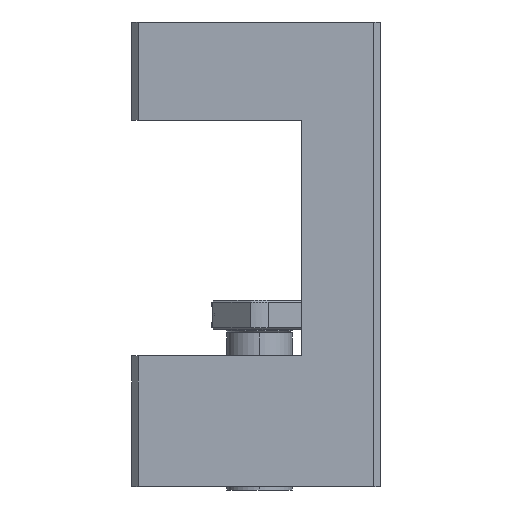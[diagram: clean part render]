
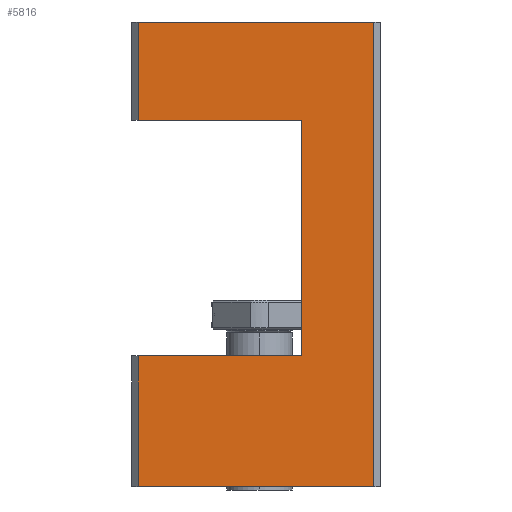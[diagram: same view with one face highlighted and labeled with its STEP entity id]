
A CAD part, left-side view. The second image highlights one B-rep face of the part: STEP entity #5816.
In plain terms, the highlighted planar face has unit normal (-1, 0, 0).
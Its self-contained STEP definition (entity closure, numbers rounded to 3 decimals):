
#68 = VERTEX_POINT ( 'NONE', #7967 ) ;
#485 = ORIENTED_EDGE ( 'NONE', *, *, #5452, .T. ) ;
#612 = ORIENTED_EDGE ( 'NONE', *, *, #2133, .F. ) ;
#669 = VERTEX_POINT ( 'NONE', #1309 ) ;
#717 = CARTESIAN_POINT ( 'NONE',  ( -21.5, -6.5, 71. ) ) ;
#1309 = CARTESIAN_POINT ( 'NONE',  ( -21.5, 18.5, 20. ) ) ;
#1413 = VERTEX_POINT ( 'NONE', #3307 ) ;
#1439 = DIRECTION ( 'NONE',  ( 1., 0., 0. ) ) ;
#1539 = ORIENTED_EDGE ( 'NONE', *, *, #4622, .T. ) ;
#1811 = CARTESIAN_POINT ( 'NONE',  ( -21.5, 18.5, 71. ) ) ;
#1820 = ORIENTED_EDGE ( 'NONE', *, *, #2327, .T. ) ;
#1991 = VERTEX_POINT ( 'NONE', #2063 ) ;
#2063 = CARTESIAN_POINT ( 'NONE',  ( -21.5, -6.5, 20. ) ) ;
#2088 = ORIENTED_EDGE ( 'NONE', *, *, #2514, .F. ) ;
#2133 = EDGE_CURVE ( 'NONE', #1991, #68, #2988, .T. ) ;
#2327 = EDGE_CURVE ( 'NONE', #2728, #9030, #3997, .T. ) ;
#2372 = CARTESIAN_POINT ( 'NONE',  ( -21.5, 18.5, 71. ) ) ;
#2514 = EDGE_CURVE ( 'NONE', #2728, #1413, #6019, .T. ) ;
#2728 = VERTEX_POINT ( 'NONE', #3164 ) ;
#2834 = DIRECTION ( 'NONE',  ( 0., -1., 0. ) ) ;
#2979 = CARTESIAN_POINT ( 'NONE',  ( -21.5, 19.5, 56. ) ) ;
#2988 = LINE ( 'NONE', #717, #7396 ) ;
#3082 = CARTESIAN_POINT ( 'NONE',  ( -21.5, 19.5, 71. ) ) ;
#3135 = VECTOR ( 'NONE', #7153, 1000. ) ;
#3164 = CARTESIAN_POINT ( 'NONE',  ( -21.5, 18.5, 71. ) ) ;
#3307 = CARTESIAN_POINT ( 'NONE',  ( -21.5, -17.5, 71. ) ) ;
#3783 = CARTESIAN_POINT ( 'NONE',  ( -21.5, 19.5, 71. ) ) ;
#3901 = VECTOR ( 'NONE', #4944, 1000. ) ;
#3997 = LINE ( 'NONE', #2372, #3135 ) ;
#4200 = ORIENTED_EDGE ( 'NONE', *, *, #4985, .T. ) ;
#4622 = EDGE_CURVE ( 'NONE', #4695, #1413, #9066, .T. ) ;
#4695 = VERTEX_POINT ( 'NONE', #7545 ) ;
#4944 = DIRECTION ( 'NONE',  ( 0., 0., -1. ) ) ;
#4985 = EDGE_CURVE ( 'NONE', #9030, #68, #5141, .T. ) ;
#5031 = ORIENTED_EDGE ( 'NONE', *, *, #8113, .T. ) ;
#5141 = LINE ( 'NONE', #2979, #9812 ) ;
#5452 = EDGE_CURVE ( 'NONE', #669, #7170, #8854, .T. ) ;
#5816 = ADVANCED_FACE ( 'NONE', ( #10070 ), #8482, .F. ) ;
#5837 = CARTESIAN_POINT ( 'NONE',  ( -21.5, -17.5, 71. ) ) ;
#6019 = LINE ( 'NONE', #3783, #9205 ) ;
#6029 = DIRECTION ( 'NONE',  ( 0., 1., 0. ) ) ;
#6095 = EDGE_CURVE ( 'NONE', #1991, #669, #7421, .T. ) ;
#6134 = DIRECTION ( 'NONE',  ( 0., 0., 1. ) ) ;
#6580 = VECTOR ( 'NONE', #2834, 1000. ) ;
#6838 = DIRECTION ( 'NONE',  ( 0., -1., 0. ) ) ;
#6839 = DIRECTION ( 'NONE',  ( 0., -1., 0. ) ) ;
#7153 = DIRECTION ( 'NONE',  ( 0., 0., -1. ) ) ;
#7170 = VERTEX_POINT ( 'NONE', #7559 ) ;
#7396 = VECTOR ( 'NONE', #6134, 1000. ) ;
#7421 = LINE ( 'NONE', #8179, #7812 ) ;
#7441 = EDGE_LOOP ( 'NONE', ( #5031, #1539, #2088, #1820, #4200, #612, #9322, #485 ) ) ;
#7491 = DIRECTION ( 'NONE',  ( 0., 0., 1. ) ) ;
#7521 = CARTESIAN_POINT ( 'NONE',  ( -21.5, 19.5, 0. ) ) ;
#7545 = CARTESIAN_POINT ( 'NONE',  ( -21.5, -17.5, 0. ) ) ;
#7559 = CARTESIAN_POINT ( 'NONE',  ( -21.5, 18.5, 0. ) ) ;
#7812 = VECTOR ( 'NONE', #8126, 1000. ) ;
#7967 = CARTESIAN_POINT ( 'NONE',  ( -21.5, -6.5, 56. ) ) ;
#8113 = EDGE_CURVE ( 'NONE', #7170, #4695, #9867, .T. ) ;
#8126 = DIRECTION ( 'NONE',  ( 0., 1., 0. ) ) ;
#8179 = CARTESIAN_POINT ( 'NONE',  ( -21.5, 19.5, 20. ) ) ;
#8482 = PLANE ( 'NONE',  #9803 ) ;
#8854 = LINE ( 'NONE', #1811, #3901 ) ;
#9030 = VERTEX_POINT ( 'NONE', #9670 ) ;
#9066 = LINE ( 'NONE', #5837, #9465 ) ;
#9205 = VECTOR ( 'NONE', #6838, 1000. ) ;
#9322 = ORIENTED_EDGE ( 'NONE', *, *, #6095, .T. ) ;
#9465 = VECTOR ( 'NONE', #7491, 1000. ) ;
#9670 = CARTESIAN_POINT ( 'NONE',  ( -21.5, 18.5, 56. ) ) ;
#9803 = AXIS2_PLACEMENT_3D ( 'NONE', #3082, #1439, #6029 ) ;
#9812 = VECTOR ( 'NONE', #6839, 1000. ) ;
#9867 = LINE ( 'NONE', #7521, #6580 ) ;
#10070 = FACE_OUTER_BOUND ( 'NONE', #7441, .T. ) ;
